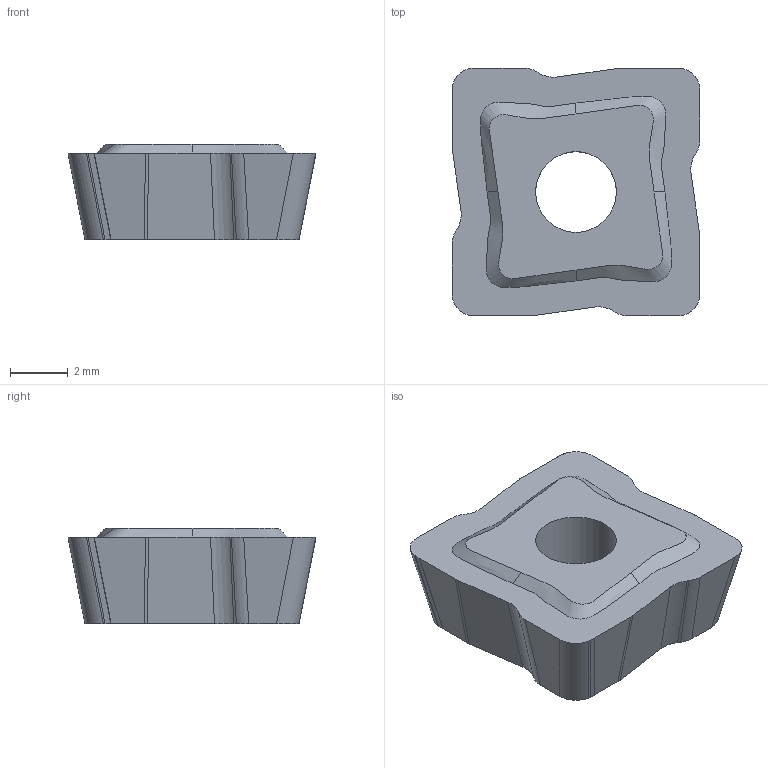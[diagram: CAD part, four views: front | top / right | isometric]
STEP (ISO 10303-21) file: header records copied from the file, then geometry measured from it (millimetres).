
FILE_DESCRIPTION(/* description */ (''),/* implementation_level */ '2;1');
FILE_NAME(/* name */ 'TCF080308DPV34_GTM.stp',/* time_stamp */ '2017-12-12T15:16:32+06:00',/* author */ (''),/* organization */ (''),/* preprocessor_version */ 'ST-DEVELOPER v15',/* originating_system */ 'SIEMENS PLM Software NX 9.0',/* authorisation */ ' ');
FILE_SCHEMA (('AUTOMOTIVE_DESIGN { 1 0 10303 214 3 1 1 1 }'));
Length unit declared in the file: millimetre
Products named in the file (1): TCF080308DPV34_GTM
Bounding box: 8.6 x 8.6 x 3.3 mm (x, y, z)
Volume: 174.2 mm3; surface area: 237.8 mm2
Topology: 1 solids, 1 shells, 52 faces, 191 edges, 186 vertices
Faces by surface type: cylinder 25, plane 23, bspline 4
Full cylindrical faces by diameter (mm): 2.8 x1
Entity records: 3360 total; most frequent: CARTESIAN_POINT 1563, DIRECTION 354, ORIENTED_EDGE 292, EDGE_CURVE 146, AXIS2_PLACEMENT_3D 125, LINE 104, VECTOR 104, VERTEX_POINT 98
